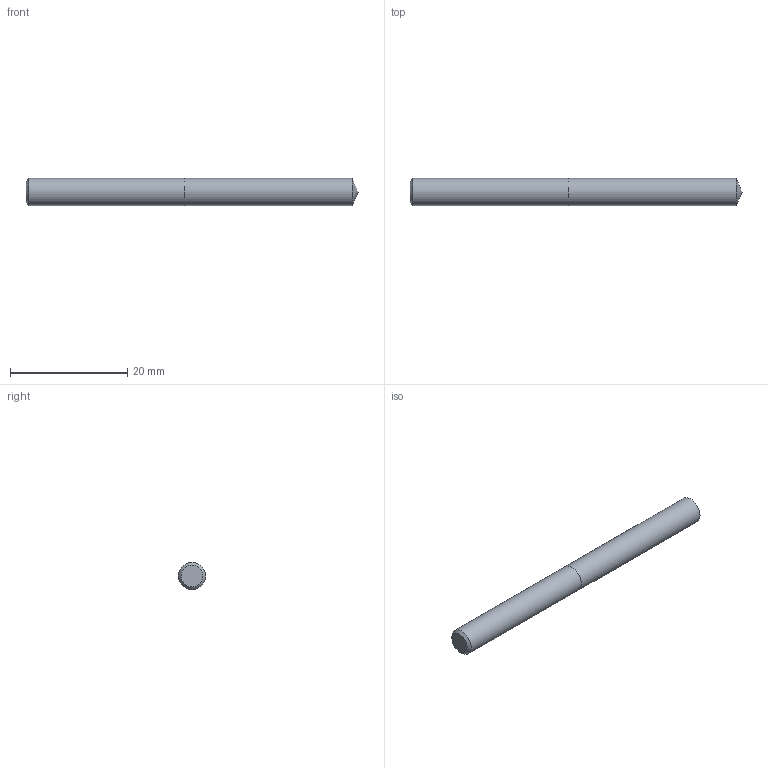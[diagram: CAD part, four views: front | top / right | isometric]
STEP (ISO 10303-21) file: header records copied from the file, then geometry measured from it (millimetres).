
FILE_DESCRIPTION (( 'STEP AP214' ), '1' );
FILE_NAME ('03-2356.STEP', '2022-06-03T06:39:47', ( 'USER' ), ( '' ), 'SwSTEP 2.0', 'SolidWorks 2018', '' );
FILE_SCHEMA (( 'AUTOMOTIVE_DESIGN' ));
Length unit declared in the file: inch
Products named in the file (1): 03-2356
Bounding box: 56.52 x 4.62 x 4.62 mm (x, y, z)
Volume: 936.5 mm3; surface area: 871.2 mm2
Topology: 2 solids, 2 shells, 7 faces, 11 edges, 7 vertices
Faces by surface type: plane 3, cylinder 2, cone 2
Full cylindrical faces by diameter (mm): 4.623 x2
Entity records: 214 total; most frequent: DIRECTION 26, CARTESIAN_POINT 18, AXIS2_PLACEMENT_3D 13, ORIENTED_EDGE 10, EDGE_LOOP 10, FACE_OUTER_BOUND 9, DIMENSIONAL_EXPONENTS 7, ADVANCED_FACE 7
